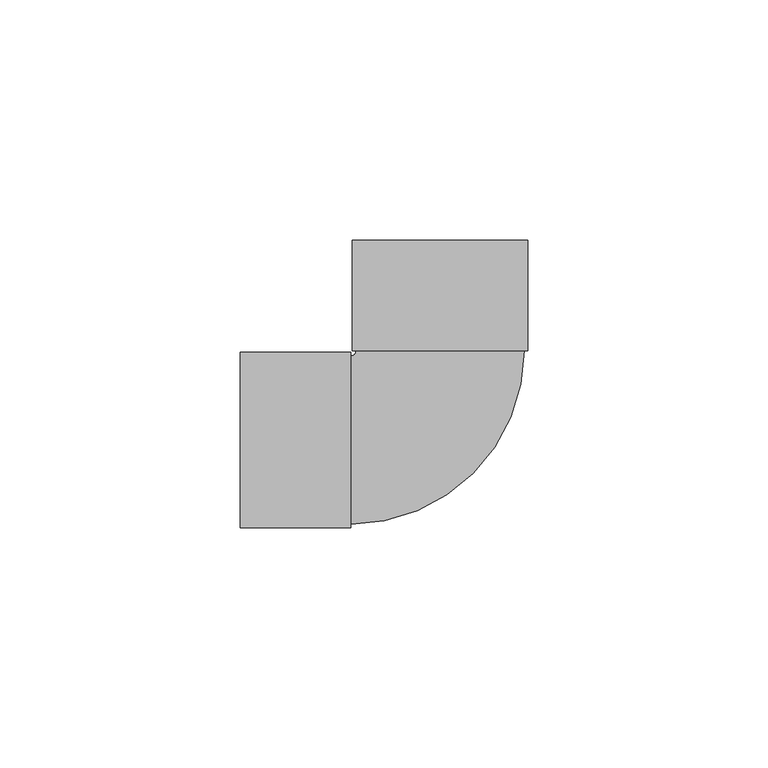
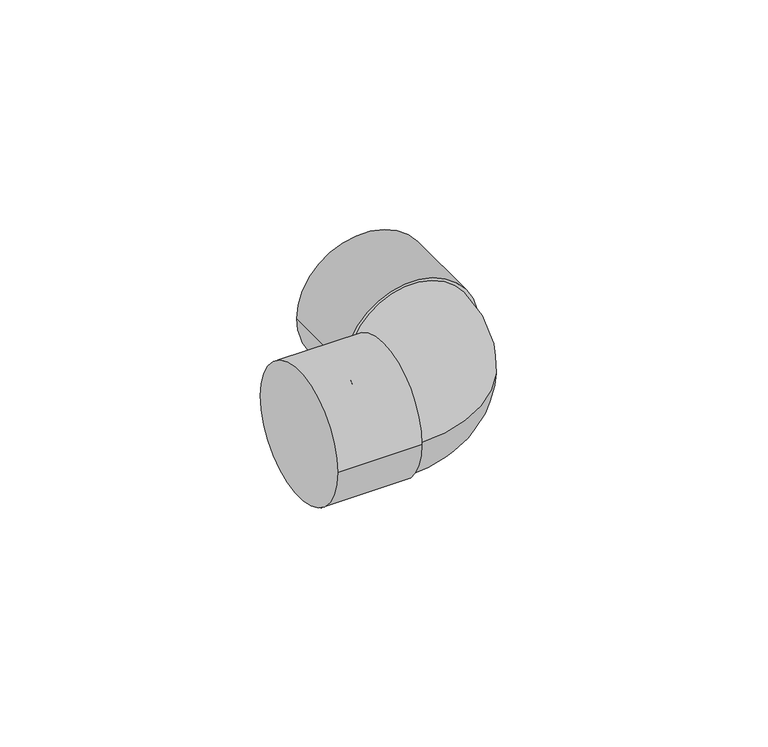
"""IFC4 building model written with IfcOpenShell, lengths in millimetres: pipe fitting geometry, Cotovelo - Soldado - CU : Padrão."""

import ifcopenshell
import ifcopenshell.guid

model = None  # the IFC model being written
_history = None  # IfcOwnerHistory: only IFC2X3 demands one
_inside = {}  # id of a spatial element -> (the spatial element, [elements in it])
_under = {}  # id of a project, library or spatial element -> (it, [spatial elements below it])
_declared = {}  # id of a project -> (the project, [libraries it declares])
_typed = {}  # id of a type object -> (the type object, [elements of that type])
_made_of = {}  # id of a material, layer set ... -> (it, [elements and type objects made of it])


def new_model(schema):
    """Start an empty IFC model of exactly this schema.

    Asked for "IFC4X3", IfcOpenShell would pick the latest addendum, in which some entities
    have other attributes; the version numbers below select the first issue.
    IFC2X3 requires an IfcOwnerHistory on every rooted entity: one is made here for all.
    """
    global model, _history
    if schema == "IFC4X3":
        model = ifcopenshell.file(schema_version=(4, 3, 0, 0))
    else:
        model = ifcopenshell.file(schema=schema)
    _inside.clear()
    _under.clear()
    _declared.clear()
    _typed.clear()
    _made_of.clear()
    _history = None
    if model.schema == "IFC2X3":
        org = make("IfcOrganization", Name="unknown")
        user = make(
            "IfcPersonAndOrganization",
            ThePerson=make("IfcPerson", FamilyName="unknown"),
            TheOrganization=org,
        )
        app = make(
            "IfcApplication",
            ApplicationDeveloper=org,
            Version="unknown",
            ApplicationFullName="unknown",
            ApplicationIdentifier="unknown",
        )
        _history = make(
            "IfcOwnerHistory",
            OwningUser=user,
            OwningApplication=app,
            ChangeAction="ADDED",
            CreationDate=0,
        )
    return model


def make(cls, **values):
    """One entity of the class cls with the attributes given. An attribute that is None is left unset."""
    return model.create_entity(
        cls, **{name: value for name, value in values.items() if value is not None}
    )


def rooted(cls, **values):
    """An entity with a GlobalId (a new one), such as an element, a storey or a relation."""
    return make(cls, GlobalId=ifcopenshell.guid.new(), OwnerHistory=_history, **values)


def si_unit(unit_type, name, prefix=None):
    """IfcSIUnit, for example si_unit("LENGTHUNIT", "METRE", prefix="MILLI")."""
    return make("IfcSIUnit", UnitType=unit_type, Prefix=prefix, Name=name)


def assignment(units):
    """IfcUnitAssignment: the units of a project."""
    return None if units is None else make("IfcUnitAssignment", Units=units)


def point(xyz):
    """IfcCartesianPoint."""
    return None if xyz is None else make("IfcCartesianPoint", Coordinates=xyz)


def direction(xyz):
    """IfcDirection."""
    return None if xyz is None else make("IfcDirection", DirectionRatios=xyz)


def frame(location, z_axis=None, x_axis=None):
    """IfcAxis2Placement3D, a coordinate frame: its origin and axes. An axis left out is left unset."""
    return make(
        "IfcAxis2Placement3D",
        Location=point(location),
        Axis=direction(z_axis),
        RefDirection=direction(x_axis),
    )


def origin():
    """The frame at (0, 0, 0) with its axes left unset."""
    return frame((0.0, 0.0, 0.0))


def place(relative_to, where):
    """IfcLocalPlacement: puts the frame where relative to a parent placement (None: the world)."""
    return make(
        "IfcLocalPlacement", PlacementRelTo=relative_to, RelativePlacement=where
    )


def context(
    kind, dimensions, precision=None, world=None, true_north=None, identifier=None
):
    """IfcGeometricRepresentationContext, for example the 3D "Model" context."""
    return make(
        "IfcGeometricRepresentationContext",
        ContextIdentifier=identifier,
        ContextType=kind,
        CoordinateSpaceDimension=dimensions,
        Precision=precision,
        WorldCoordinateSystem=world,
        TrueNorth=true_north,
    )


def project(units=None, contexts=None):
    """IfcProject with its units and contexts."""
    return rooted(
        "IfcProject",
        Name="project",
        RepresentationContexts=contexts,
        UnitsInContext=assignment(units),
    )


def spatial(cls, under=None, at=None, **own):
    """A site, building, storey or space (cls), placed at a placement, below another one or the project."""
    s = rooted(cls, ObjectPlacement=at, **own)
    if under is not None:
        _under.setdefault(under.id(), (under, []))[1].append(s)
    return s


def circle_curve(where, radius):
    """IfcCircle in the frame where."""
    return make("IfcCircle", Position=where, Radius=radius)


def ellipse_curve(where, semi_axis1, semi_axis2):
    """IfcEllipse in the frame where."""
    return make(
        "IfcEllipse", Position=where, SemiAxis1=semi_axis1, SemiAxis2=semi_axis2
    )


def trimmed(basis, trim1, trim2, sense, master):
    """IfcTrimmedCurve: the piece of a basis curve between two trims."""
    return make(
        "IfcTrimmedCurve",
        BasisCurve=basis,
        Trim1=trim1,
        Trim2=trim2,
        SenseAgreement=sense,
        MasterRepresentation=master,
    )


def shape(context_of_items, identifier, shape_type, items):
    """IfcShapeRepresentation: the items that make up one representation, for example the "Body"."""
    return make(
        "IfcShapeRepresentation",
        ContextOfItems=context_of_items,
        RepresentationIdentifier=identifier,
        RepresentationType=shape_type,
        Items=items,
    )


def source(mapping_origin, context_of_items, identifier, shape_type, items):
    """IfcRepresentationMap: a shape defined once, which mapped items show again and again."""
    return make(
        "IfcRepresentationMap",
        MappingOrigin=mapping_origin,
        MappedRepresentation=shape(context_of_items, identifier, shape_type, items),
    )


def transform(
    local_origin,
    x_axis=None,
    y_axis=None,
    z_axis=None,
    scale=None,
    scale2=None,
    scale3=None,
    uniform=True,
):
    """IfcCartesianTransformationOperator3D, or its non-uniform kind. x_axis, y_axis, z_axis: its Axis1, 2, 3."""
    if uniform:
        return make(
            "IfcCartesianTransformationOperator3D",
            Axis1=direction(x_axis),
            Axis2=direction(y_axis),
            LocalOrigin=point(local_origin),
            Scale=scale,
            Axis3=direction(z_axis),
        )
    return make(
        "IfcCartesianTransformationOperator3DnonUniform",
        Axis1=direction(x_axis),
        Axis2=direction(y_axis),
        LocalOrigin=point(local_origin),
        Scale=scale,
        Axis3=direction(z_axis),
        Scale2=scale2,
        Scale3=scale3,
    )


def mapped(mapping_source, mapping_target):
    """IfcMappedItem: shows the shape of a source again, moved by a transform."""
    return make(
        "IfcMappedItem", MappingSource=mapping_source, MappingTarget=mapping_target
    )


def made_of(thing, what):
    """Note that an element or type object is made of a material, layer set ...; save() writes the relation."""
    if what is not None:
        _made_of.setdefault(what.id(), (what, []))[1].append(thing)
    return thing


def element(
    cls,
    number,
    at=None,
    inside=None,
    cuts=None,
    type_object=None,
    material=None,
    context=None,
    identifier="Body",
    shape_type=None,
    held_by="IfcProductDefinitionShape",
    body=None,
    shapes=None,
    **own,
):
    """One element of the class cls, such as IfcWall. Its Tag is "e" and its number.

    at: its placement. inside: the storey or other place that contains it. cuts: it is an
    opening in that element (IfcRelVoidsElement). A single representation is given by context,
    identifier, shape_type and body (its items); several are given by shapes. held_by: the class
    of the entity that holds the representations. save() writes the other relations.
    """
    e = rooted(cls, Tag="e%d" % number, ObjectPlacement=at, **own)
    if body is not None:
        shapes = [shape(context, identifier, shape_type, body)]
    if shapes is not None:
        e.Representation = make(held_by, Representations=shapes)
    if inside is not None:
        _inside.setdefault(inside.id(), (inside, []))[1].append(e)
    if cuts is not None:
        rooted(
            "IfcRelVoidsElement", RelatingBuildingElement=cuts, RelatedOpeningElement=e
        )
    if type_object is not None:
        _typed.setdefault(type_object.id(), (type_object, []))[1].append(e)
    return made_of(e, material)


def aggregate(whole, parts):
    """IfcRelAggregates: a whole, such as a stair, and the parts it consists of."""
    return rooted("IfcRelAggregates", RelatingObject=whole, RelatedObjects=parts)


def save(model, path):
    """Write the relations noted so far, then the file.

    IfcRelAggregates (storeys below a building ...), IfcRelContainedInSpatialStructure (elements
    in a storey), IfcRelDefinesByType, IfcRelAssociatesMaterial and IfcRelDeclares: one each for
    every whole, place, type object, material and project.
    """
    for whole, parts in _under.values():
        aggregate(whole, parts)
    for where, things in _inside.values():
        rooted(
            "IfcRelContainedInSpatialStructure",
            RelatedElements=things,
            RelatingStructure=where,
        )
    for kind, things in _typed.values():
        rooted("IfcRelDefinesByType", RelatedObjects=things, RelatingType=kind)
    for what, things in _made_of.values():
        rooted("IfcRelAssociatesMaterial", RelatedObjects=things, RelatingMaterial=what)
    for by, libraries in _declared.values():
        rooted("IfcRelDeclares", RelatingContext=by, RelatedDefinitions=libraries)
    model.write(path)


def plane_surface(at):
    """IfcPlane: the flat surface through the origin of the frame at, square to its z axis."""
    return make("IfcPlane", Position=at)


def cylinder_surface(at, radius):
    """IfcCylindricalSurface: all points at the distance radius from the z axis of the frame at."""
    return make("IfcCylindricalSurface", Position=at, Radius=radius)


def revolved_surface(curve, axis_point, axis_direction):
    """IfcSurfaceOfRevolution: the curve turned about the line through axis_point along axis_direction."""
    return make(
        "IfcSurfaceOfRevolution",
        SweptCurve=make("IfcArbitraryOpenProfileDef", ProfileType="CURVE", Curve=curve),
        AxisPosition=make("IfcAxis1Placement", Location=point(axis_point), Axis=direction(axis_direction)),
    )


def advanced_brep(points, edges, surfaces, faces):
    """IfcAdvancedBrep: a solid bounded by faces that lie on surfaces and meet in shared edges.

    An edge is (start, end): straight between two places in points (the first is 0);
    or (start, end, curve); or (start, end, curve, False) where it runs against its curve.
    A face is (place in surfaces, loops), or (place, loops, False) where it looks against
    its surface's normal. A loop lists edges by number (the first is 1), with a minus sign
    where the edge is run from its end to its start. The first loop is the outer one.
    """
    corners = [point(p) for p in points]
    vertices = [make("IfcVertexPoint", VertexGeometry=c) for c in corners]
    made = []
    for start, end, *more in edges:
        made.append(
            make(
                "IfcEdgeCurve",
                EdgeStart=vertices[start],
                EdgeEnd=vertices[end],
                EdgeGeometry=more[0] if more else make("IfcPolyline", Points=[corners[start], corners[end]]),
                SameSense=more[1] if len(more) > 1 else True,
            )
        )
    hull = []
    for where, loops, *sense in faces:
        bounds = []
        for j, loop in enumerate(loops):
            ring = [make("IfcOrientedEdge", EdgeElement=made[abs(k) - 1], Orientation=k > 0) for k in loop]
            bounds.append(
                make(
                    "IfcFaceOuterBound" if j == 0 else "IfcFaceBound",
                    Bound=make("IfcEdgeLoop", EdgeList=ring),
                    Orientation=True,
                )
            )
        hull.append(make("IfcAdvancedFace", Bounds=bounds, FaceSurface=surfaces[where], SameSense=sense[0] if sense else True))
    return make("IfcAdvancedBrep", Outer=make("IfcClosedShell", CfsFaces=hull))


def pipe_fitting_752db109(model_context):
    return source(origin(), model_context, "Body", "AdvancedBrep", [
        advanced_brep(
        [(-17.500273, 18.5997431, 0.0), (-18.6, 17.5, 0.0), (-18.6, -17.5, 0.0), (17.499727, 18.6002569, 0.0), (-41.6, -18.28, 0.0), (-41.6, 18.28, 0.0), (-18.6, -18.28, 0.0), (-18.6, 18.28, 0.0), (-18.2806106, 41.5997317, 0.0), (18.2793894, 41.6002683, 0.0), (-18.280273, 18.5997317, 0.0), (18.279727, 18.6002683, 0.0)],
        [
            (0, 1, circle_curve(frame((-18.6, 18.599727, 0.0), z_axis=(0.0, 0.0, -1.0), x_axis=(0.0, -1.0, 0.0)), 1.099727)),
            (1, 2, circle_curve(frame((-18.6, 0.0, 0.0), z_axis=(1.0, 0.0, 0.0), x_axis=(0.0, 1.0, 0.0)), 17.5)),
            (2, 3, circle_curve(frame((-18.6, 18.599727, 0.0), z_axis=(0.0, 0.0, 1.0), x_axis=(0.0, -1.0, 0.0)), 36.099727)),
            (3, 0, circle_curve(frame((-0.000273, 18.6, 0.0), z_axis=(1.4678579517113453e-05, -0.9999999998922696, 0.0), x_axis=(-0.9999999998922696, -1.4678579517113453e-05, 0.0)), 17.5)),
            (0, 3, circle_curve(frame((-0.000273, 18.6, 0.0), z_axis=(1.4678579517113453e-05, -0.9999999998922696, 0.0), x_axis=(-0.9999999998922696, -1.4678579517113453e-05, 0.0)), 17.5)),
            (2, 1, circle_curve(frame((-18.6, 0.0, 0.0), z_axis=(1.0, 0.0, 0.0), x_axis=(0.0, 1.0, 0.0)), 17.5)),
            (4, 5, circle_curve(frame((-41.6, 0.0, 0.0), z_axis=(-1.0, 0.0, 0.0), x_axis=(0.0, 1.0, 0.0)), 18.28)),
            (5, 4, circle_curve(frame((-41.6, 0.0, 0.0), z_axis=(-1.0, 0.0, 0.0), x_axis=(0.0, 1.0, 0.0)), 18.28)),
            (6, 7, circle_curve(frame((-18.6, 0.0, 0.0), z_axis=(1.0, 0.0, 0.0), x_axis=(0.0, 1.0, 0.0)), 18.28)),
            (7, 6, circle_curve(frame((-18.6, 0.0, 0.0), z_axis=(1.0, 0.0, 0.0), x_axis=(0.0, 1.0, 0.0)), 18.28)),
            (4, 6),
            (7, 5),
            (8, 9, circle_curve(frame((-0.0006106, 41.6, 0.0), z_axis=(-1.4678579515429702e-05, 0.9999999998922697, 0.0), x_axis=(0.9999999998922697, 1.4678579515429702e-05, 0.0)), 18.28)),
            (9, 8, circle_curve(frame((-0.0006106, 41.6, 0.0), z_axis=(-1.4678579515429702e-05, 0.9999999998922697, 0.0), x_axis=(0.9999999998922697, 1.4678579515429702e-05, 0.0)), 18.28)),
            (10, 11, circle_curve(frame((-0.000273, 18.6, 0.0), z_axis=(1.4678579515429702e-05, -0.9999999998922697, 0.0), x_axis=(0.9999999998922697, 1.4678579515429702e-05, 0.0)), 18.28)),
            (11, 10, circle_curve(frame((-0.000273, 18.6, 0.0), z_axis=(1.4678579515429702e-05, -0.9999999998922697, 0.0), x_axis=(0.9999999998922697, 1.4678579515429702e-05, 0.0)), 18.28)),
            (8, 10),
            (11, 9),
        ],
        [
            revolved_surface(trimmed(ellipse_curve(frame((-18.6, 0.0, 0.0), z_axis=(-1.0, 0.0, 0.0), x_axis=(0.0, 1.0, 0.0)), 17.5, 17.5), [point((-18.6, -17.5, 0.0))], [point((-18.6, 17.5, 0.0))], True, "CARTESIAN"), (-18.6, 18.599727, 0.0), (0.0, 0.0, 1.0)),
            revolved_surface(trimmed(ellipse_curve(frame((-18.6, 0.0, 0.0), z_axis=(-1.0, 0.0, 0.0), x_axis=(0.0, 1.0, 0.0)), 17.5, 17.5), [point((-18.6, 17.5, 0.0))], [point((-18.6, -17.5, 0.0))], True, "CARTESIAN"), (-18.6, 18.599727, 0.0), (0.0, 0.0, 1.0)),
            plane_surface(frame((-41.6, 0.0, 0.0), z_axis=(-1.0, 0.0, 0.0), x_axis=(0.0, 0.0, 1.0))),
            plane_surface(frame((-18.6, 0.0, 0.0), z_axis=(1.0, 0.0, 0.0), x_axis=(0.0, 0.0, 1.0))),
            cylinder_surface(frame((-41.6, 0.0, 0.0), z_axis=(-1.0, 0.0, 0.0), x_axis=(0.0, 1.0, 0.0)), 18.28),
            plane_surface(frame((-0.0006106, 41.6, 0.0), z_axis=(-1.4678579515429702e-05, 0.9999999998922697, 0.0), x_axis=(0.0, 0.0, 1.0))),
            plane_surface(frame((-0.000273, 18.6, 0.0), z_axis=(1.4678579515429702e-05, -0.9999999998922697, 0.0), x_axis=(0.0, 0.0, 1.0))),
            cylinder_surface(frame((-0.0006106, 41.6, 0.0), z_axis=(-1.4678579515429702e-05, 0.9999999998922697, 0.0), x_axis=(0.9999999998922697, 1.4678579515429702e-05, 0.0)), 18.28),
        ],
        [
            (0, [[1, 2, 3, 4]]),
            (1, [[-1, 5, -3, 6]]),
            (2, [[7, 8]]),
            (3, [[9, 10], [-2, -6]]),
            (4, [[-7, 11, -10, 12]]),
            (4, [[-8, -12, -9, -11]]),
            (5, [[13, 14]]),
            (6, [[15, 16], [-4, -5]]),
            (7, [[-13, 17, -16, 18]]),
            (7, [[-14, -18, -15, -17]]),
        ],
    ),
    ])


if __name__ == "__main__":
    model = new_model("IFC4")
    model_context = context("Model", 3, world=origin())
    ifc_project = project(units=[si_unit("LENGTHUNIT", "METRE", prefix="MILLI")], contexts=[model_context])
    site = spatial("IfcSite", under=ifc_project)
    building = spatial("IfcBuilding", under=site)
    placement = place(None, origin())
    pipe_fitting_shape = pipe_fitting_752db109(model_context)
    element("IfcPipeFitting", 1, ObjectType="Cotovelo - Soldado - CU : Padrão", at=placement, inside=building, context=model_context, shape_type="MappedRepresentation", body=[
        mapped(pipe_fitting_shape, transform((0.0, 0.0, 0.0), x_axis=(1.0, 0.0, 0.0), y_axis=(0.0, 1.0, 0.0), z_axis=(0.0, 0.0, 1.0))),
    ])
    save(model, "model.ifc")
